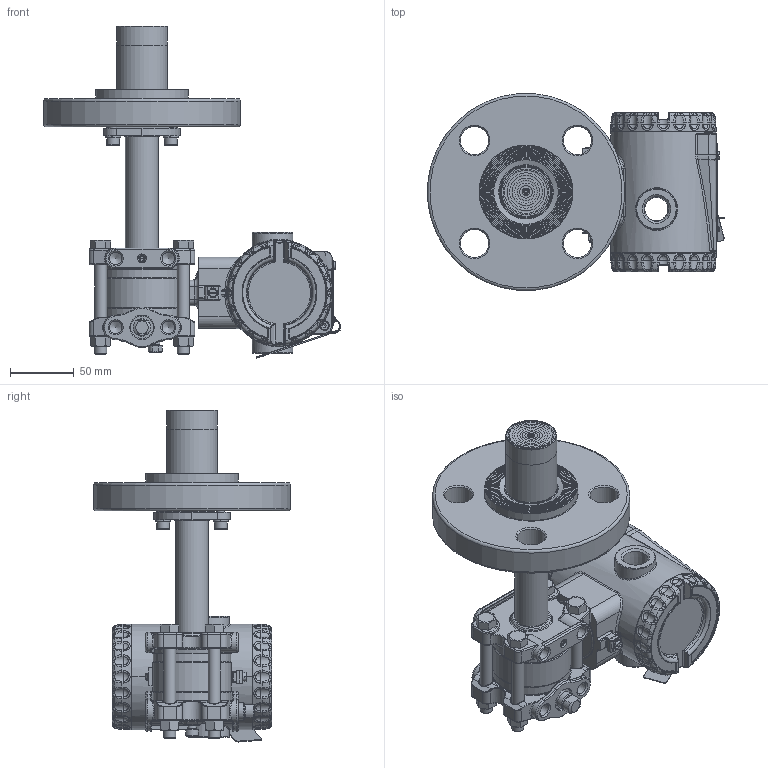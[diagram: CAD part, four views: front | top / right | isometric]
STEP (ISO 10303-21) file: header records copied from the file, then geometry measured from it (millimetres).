
FILE_DESCRIPTION(/* description */ (''),/* implementation_level */ '2;1');
FILE_NAME(/* name */ 'F:\Area\Desenvolvimento_2\Projects\Sensor\projetos\LD400-3d\dimensionais 3D clientes\LD400L\LD400L 1-1-2-600 RF ext 50 ref 1-4NPT purga acima.stp',/* time_stamp */ '2023-02-23T14:57:10-03:00',/* author */ ('inventor02'),/* organization */ (''),/* preprocessor_version */ 'ST-DEVELOPER v17',/* originating_system */ 'Autodesk Inventor 2019',/* authorisation */ '');
FILE_SCHEMA (('CONFIG_CONTROL_DESIGN'));
Products named in the file (41): LD30XL 1-1-2-600 RF ext 50 ref 1-4NPT purga acima; 204-0301-L-1-1-2 600 RF ext 50 purga acima; nivel fx3 com baixa diferencial 1-4NPT purga acima; involucro fx0-3 apos a usinagem final; flange diferencial std purga; 101-C-7484-01 flange selo nivel VR; 201-A-0504-tubo união teste 1; bujao 1-4NPT; Sangria; Porca 3-8 x 16 UNC; Paraf. 3-8 x 16 UNC; adaptação tubo x flanges 1-1-2 a 4pol; 101-B-0161-anel cortado do tubo - teste1; 101-B-0162-flange fixação tubo; ANSI B18.3.1M - M6x1 x 16; DIN 127 - A 6; flange 1-1-2 600 ext 50; 101-B-7699-01 ext 1-1-2-50; 101-B-5190-03; 101-C-3332-02; Carcaça 400 com tampas e plaqueta sem letras; 101-D-0845-05 carcaça LD400 sem letras; 101-B-3614-03-tampa 400 sem letras; Tampa visor 400 montada sem letras; 101-B-3612-05 tampa visor 400 sem letras; 101-A-6107; oring 2034; 00034775-0; WHW_250; DIN 915 - M6 x 10; Chapa aterramento externo; 201-A-1771-02 inserto terra recartilhado; AS 1969 - ST4,2; ISO 1207 - M4 x 8; ANSI B18.3.1M - M4x0,7 x 8; Subconjunto plaqueta 400; plaqueta 400 em branco; Parafuso da Plaqueta; Rebite da Plaqueta; 096-A-0169-03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
Assembly tree (50 placements, depth 4):
  LD30XL 1-1-2-600 RF ext 50 ref 1-4NPT purga acima
    204-0301-L-1-1-2 600 RF ext 50 purga acima
      nivel fx3 com baixa diferencial 1-4NPT purga acima
        involucro fx0-3 apos a usinagem final
        flange diferencial std purga
        101-C-7484-01 flange selo nivel VR
        201-A-0504-tubo união teste 1
        DIN 915 - M6 x 10
        bujao 1-4NPT
        Sangria
        Porca 3-8 x 16 UNC  x4
        Paraf. 3-8 x 16 UNC  x4
      adaptação tubo x flanges 1-1-2 a 4pol
        101-B-0161-anel cortado do tubo - teste1
        101-B-0162-flange fixação tubo
        ANSI B18.3.1M - M6x1 x 16  x2
        DIN 127 - A 6  x2
      flange 1-1-2 600 ext 50
        101-B-7699-01 ext 1-1-2-50
        101-B-5190-03
        101-C-3332-02
    Carcaça 400 com tampas e plaqueta sem letras
      101-D-0845-05 carcaça LD400 sem letras
      101-B-3614-03-tampa 400 sem letras
      Tampa visor 400 montada sem letras
        101-B-3612-05 tampa visor 400 sem letras
        101-A-6107
        oring 2034
        00034775-0
        WHW_250
      DIN 915 - M6 x 10
      Chapa aterramento externo
      201-A-1771-02 inserto terra recartilhado
      AS 1969 - ST4,2
      ISO 1207 - M4 x 8
      ANSI B18.3.1M - M4x0,7 x 8  x2
      Subconjunto plaqueta 400
        plaqueta 400 em branco
        Parafuso da Plaqueta
        Rebite da Plaqueta
        096-A-0169-03
        101-A-0502-01
Bounding box: 232.96 x 154.41 x 260.72 mm (x, y, z)
Volume: 1068056.3 mm3; surface area: 327845.8 mm2
Topology: 43 solids, 43 shells, 2761 faces, 6703 edges, 4023 vertices
Faces by surface type: plane 721, cylinder 664, bspline 605, torus 473, cone 222, sphere 76
Full cylindrical faces by diameter (mm): 2 x4, 2.1 x1, 2.2 x1, 2.459 x3, 2.5 x1, 2.7 x1, 2.8 x1, 3 x4, 3.242 x3, 3.5 x1, 3.571 x1, 4 x5, 4.3 x2, 4.4 x1, 4.917 x4, 5 x1, 5.5 x3, 6 x6, 6.1 x2, 6.2 x1, 6.647 x1, 7 x5, 7.6 x2, 7.798 x4, 8 x1, 9.525 x4, 9.728 x6, 10 x2, 10.5 x8, 10.719 x2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
Entity records: 98556 total; most frequent: CARTESIAN_POINT 37075, DIRECTION 12670, ORIENTED_EDGE 12646, EDGE_CURVE 6323, AXIS2_PLACEMENT_3D 5424, VERTEX_POINT 3829, CIRCLE 3151, EDGE_LOOP 2796
